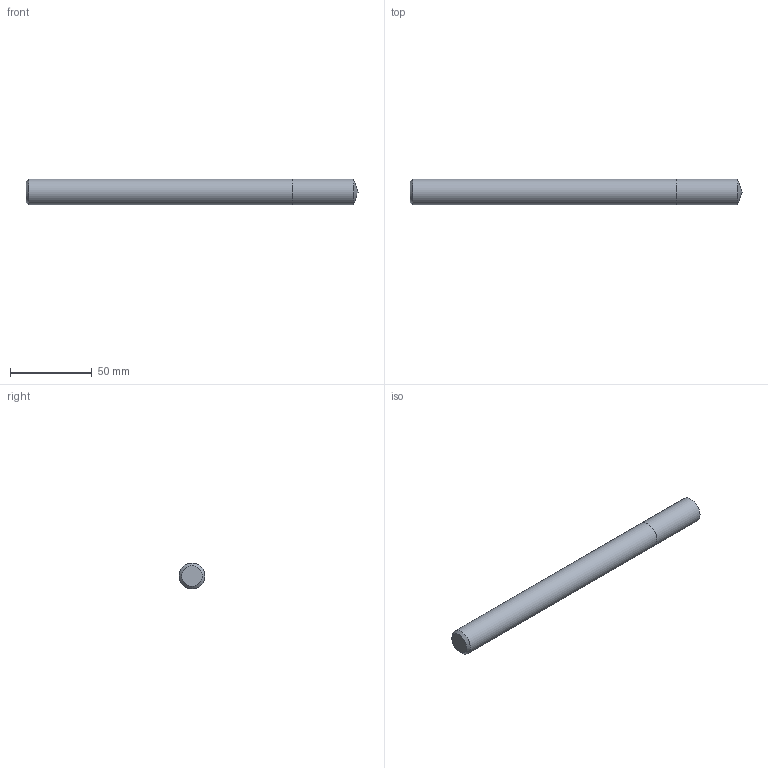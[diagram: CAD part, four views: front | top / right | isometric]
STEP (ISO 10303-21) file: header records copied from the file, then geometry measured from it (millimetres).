
FILE_DESCRIPTION (( 'STEP AP214' ), '1' );
FILE_NAME ('03-2235.STEP', '2022-02-07T07:07:03', ( 'USER' ), ( '' ), 'SwSTEP 2.0', 'SolidWorks 2018', '' );
FILE_SCHEMA (( 'AUTOMOTIVE_DESIGN' ));
Length unit declared in the file: millimetre
Products named in the file (1): 03-2235
Bounding box: 203.2 x 15.88 x 15.88 mm (x, y, z)
Volume: 39800.6 mm3; surface area: 10751.3 mm2
Topology: 2 solids, 2 shells, 7 faces, 11 edges, 7 vertices
Faces by surface type: plane 3, cylinder 2, cone 2
Full cylindrical faces by diameter (mm): 15.875 x2
Entity records: 189 total; most frequent: DIRECTION 26, CARTESIAN_POINT 18, AXIS2_PLACEMENT_3D 13, EDGE_LOOP 10, ORIENTED_EDGE 10, FACE_OUTER_BOUND 9, ADVANCED_FACE 7, UNCERTAINTY_MEASURE_WITH_UNIT 6
